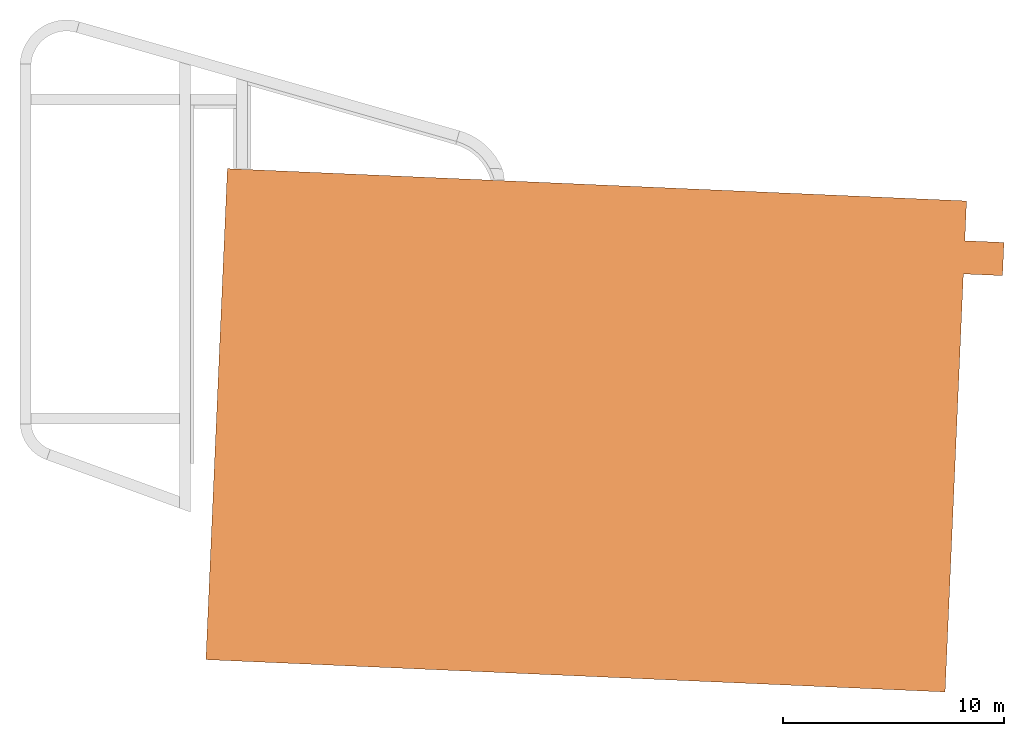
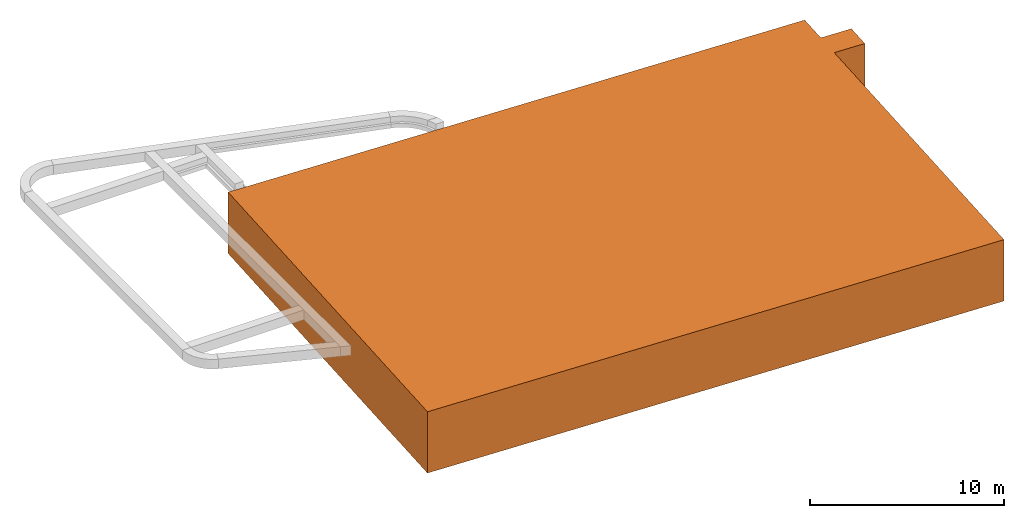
# One storey, part 2 of 2: 1 proxy.
"""IFC2X3 building model written with IfcOpenShell, lengths in millimetres."""

from ifc_helpers import new_model, entity, si_unit, converted_unit, derived_unit, direction, frame, origin, place, context, subcontext, project, spatial, polyline, outline, extrude, source, transform, mapped, material, type_object, type_shapes, element, save


model = new_model("IFC2X3")

# Units and contexts
model_context = context("Model", 3, precision=0.01, world=origin(), true_north=direction((6.12303176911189e-17, 1.0)))
context_of_model = context(None, 3, precision=0.01, world=origin(), true_north=direction((6.12303176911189e-17, 1.0)))
body_context = subcontext(model_context, "Body", "Model", "MODEL_VIEW")
ifc_project = project(units=[si_unit("LENGTHUNIT", "METRE", prefix="MILLI"), si_unit("AREAUNIT", "SQUARE_METRE"), si_unit("VOLUMEUNIT", "CUBIC_METRE"), converted_unit("PLANEANGLEUNIT", "DEGREE", entity("IfcRatioMeasure", 0.0174532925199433), si_unit("PLANEANGLEUNIT", "RADIAN"), dimensions=[0, 0, 0, 0, 0, 0, 0]), si_unit("MASSUNIT", "GRAM", prefix="KILO"), derived_unit("MASSDENSITYUNIT", [(si_unit("MASSUNIT", "GRAM", prefix="KILO"), 1), (si_unit("LENGTHUNIT", "METRE"), -3)]), derived_unit("MOMENTOFINERTIAUNIT", [(si_unit("LENGTHUNIT", "METRE"), 4)]), si_unit("TIMEUNIT", "SECOND"), si_unit("FREQUENCYUNIT", "HERTZ"), si_unit("THERMODYNAMICTEMPERATUREUNIT", "DEGREE_CELSIUS"), derived_unit("THERMALTRANSMITTANCEUNIT", [(si_unit("MASSUNIT", "GRAM", prefix="KILO"), 1), (si_unit("THERMODYNAMICTEMPERATUREUNIT", "KELVIN"), -1), (si_unit("TIMEUNIT", "SECOND"), -3)]), derived_unit("VOLUMETRICFLOWRATEUNIT", [(si_unit("LENGTHUNIT", "METRE"), 3), (si_unit("TIMEUNIT", "SECOND"), -1)]), si_unit("ELECTRICCURRENTUNIT", "AMPERE"), si_unit("ELECTRICVOLTAGEUNIT", "VOLT"), si_unit("POWERUNIT", "WATT"), si_unit("FORCEUNIT", "NEWTON", prefix="KILO"), si_unit("ILLUMINANCEUNIT", "LUX"), si_unit("LUMINOUSFLUXUNIT", "LUMEN"), si_unit("LUMINOUSINTENSITYUNIT", "CANDELA"), derived_unit("USERDEFINED", [(si_unit("MASSUNIT", "GRAM", prefix="KILO"), -1), (si_unit("LENGTHUNIT", "METRE"), -2), (si_unit("TIMEUNIT", "SECOND"), 3), (si_unit("LUMINOUSFLUXUNIT", "LUMEN"), 1)]), derived_unit("LINEARVELOCITYUNIT", [(si_unit("LENGTHUNIT", "METRE"), 1), (si_unit("TIMEUNIT", "SECOND"), -1)]), si_unit("PRESSUREUNIT", "PASCAL"), derived_unit("USERDEFINED", [(si_unit("LENGTHUNIT", "METRE"), -2), (si_unit("MASSUNIT", "GRAM", prefix="KILO"), 1), (si_unit("TIMEUNIT", "SECOND"), -2)]), derived_unit("LINEARFORCEUNIT", [(si_unit("MASSUNIT", "GRAM", prefix="KILO"), 1), (si_unit("LENGTHUNIT", "METRE"), 1), (si_unit("TIMEUNIT", "SECOND"), -2), (si_unit("LENGTHUNIT", "METRE"), -1)]), derived_unit("PLANARFORCEUNIT", [(si_unit("MASSUNIT", "GRAM", prefix="KILO"), 1), (si_unit("LENGTHUNIT", "METRE"), 1), (si_unit("TIMEUNIT", "SECOND"), -2), (si_unit("LENGTHUNIT", "METRE"), -2)])], contexts=[model_context, context_of_model])

# Site, building, storey
site_placement = place(None, origin())
site = spatial("IfcSite", under=ifc_project, at=site_placement, Name="Default", CompositionType="ELEMENT")
building_placement = place(site_placement, origin())
building = spatial("IfcBuilding", under=site, at=building_placement, Name="IFc", CompositionType="ELEMENT")
storey_placement = place(building_placement, frame((0.0, 0.0, -4000.0)))
storey = spatial("IfcBuildingStorey", under=building, at=storey_placement, Name="-01 kelder", CompositionType="ELEMENT", Elevation=-4000.0)

# Proxy
ifc_material = material(Name="IMd_beton_IHWG")
building_element_proxy_type = type_object("IfcBuildingElementProxyType", Name="Bestaande kelder:Bestaande kelder", PredefinedType="NOTDEFINED", material=ifc_material)
shared_shape = source(origin(), body_context, "Body", "SweptSolid", [
    extrude(outline(polyline([(-7912.49999999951, -6825.0), (25507.4999999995, -6825.0), (25507.4999999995, 15375.0), (-7912.50000000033, 15375.0), (-7912.50000000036, -3525.0), (-9682.4999999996, -3525.0), (-9682.4999999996, -5025.0), (-7912.49999999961, -5025.0), (-7912.49999999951, -6825.0)])), frame((44277.0558288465, 13350.2257992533, -4740.0), z_axis=(0.0, 0.0, 1.0), x_axis=(-0.999045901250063, 0.0436724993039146, 0.0)), (0.0, 0.0, 1.0), 3850.0),
])
type_shapes(building_element_proxy_type, [shared_shape])
proxy_placement = place(storey_placement, frame((0.0, 0.0, 4000.0)))
element("IfcBuildingElementProxy", 1, at=proxy_placement, inside=storey, type_object=building_element_proxy_type, material=ifc_material, Name="Bestaande kelder:Bestaande kelder", ObjectType="Bestaande kelder:Bestaande kelder", context=body_context, shape_type="MappedRepresentation", body=[
    mapped(shared_shape, transform((0.0, 0.0, 0.0), scale=1.0)),
])

save(model, "model.ifc")
